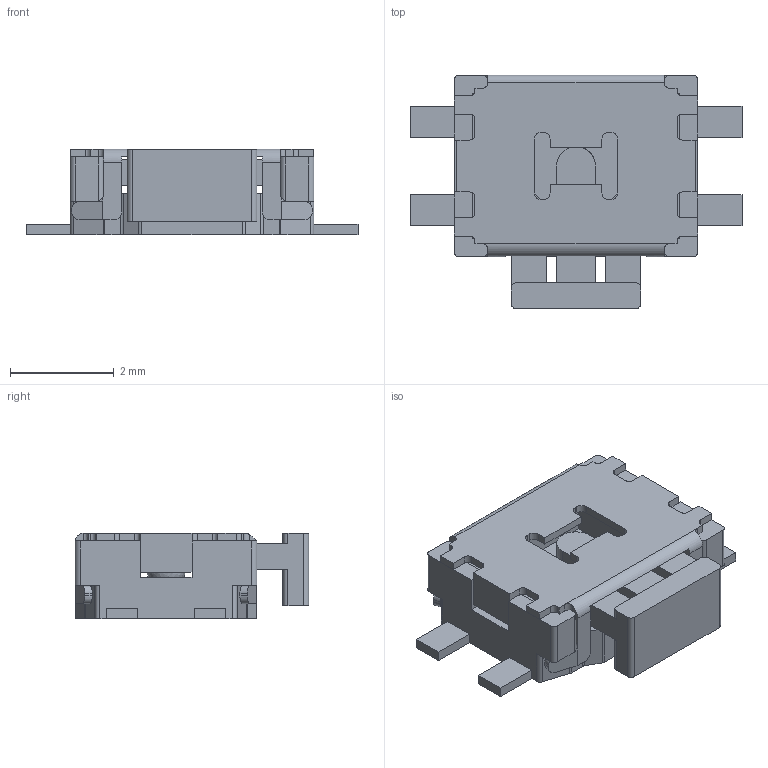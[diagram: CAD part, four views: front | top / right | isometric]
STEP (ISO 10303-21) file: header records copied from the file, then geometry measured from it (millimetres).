
FILE_DESCRIPTION((''),'2;1');
FILE_NAME('P:\E-Switch Secure\3D_MODELS_STP_FORMAT\TL1014AFxxxQG.stp','2013-03-28T13:15:29',('epieh'),(''),'Autodesk Inventor 2012','Autodesk Inventor 2012','');
FILE_SCHEMA(('AUTOMOTIVE_DESIGN { 1 0 10303 214 1 1 1 1 }'));
Length unit declared in the file: millimetre
Products named in the file (4): P410001; TL1014 A Housing; TL1014 Actuator; TL1014 Cover
Assembly tree (3 placements, depth 2):
  P410001
    TL1014 A Housing
    TL1014 Actuator
    TL1014 Cover
Bounding box: 6.4 x 4.5 x 1.65 mm (x, y, z)
Volume: 23.7 mm3; surface area: 145.3 mm2
Topology: 3 solids, 3 shells, 267 faces, 767 edges, 504 vertices
Faces by surface type: plane 183, cylinder 83, sphere 1
Entity records: 8885 total; most frequent: CARTESIAN_POINT 1622, ORIENTED_EDGE 1528, DIRECTION 1473, EDGE_CURVE 764, VECTOR 583, LINE 583, VERTEX_POINT 502, AXIS2_PLACEMENT_3D 445
